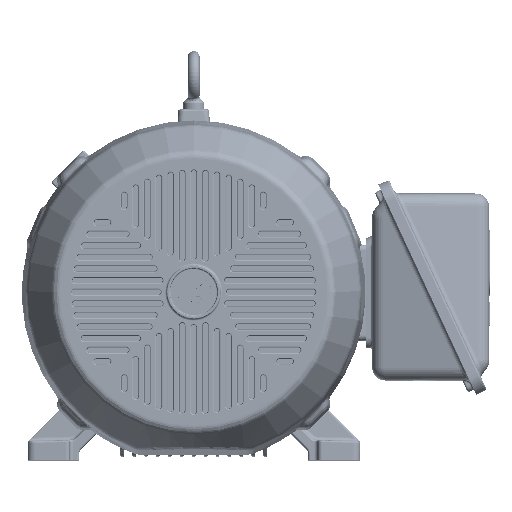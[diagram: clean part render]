
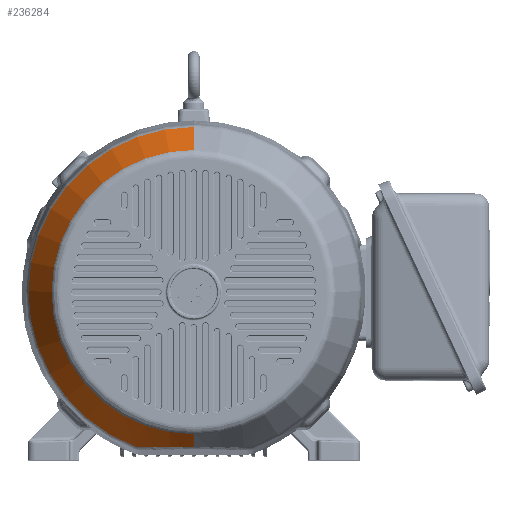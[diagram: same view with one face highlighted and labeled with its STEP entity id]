
A CAD part, top view. The second image highlights one B-rep face of the part: STEP entity #236284.
In plain terms, the highlighted conical face has half-angle 30 degrees and reference radius 255.525 mm.
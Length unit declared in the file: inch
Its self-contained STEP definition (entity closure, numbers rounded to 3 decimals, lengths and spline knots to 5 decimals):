
#228010=CARTESIAN_POINT('',(3.81286,-10.11872,
-5.82586));
#228011=CARTESIAN_POINT('',(3.65687,-10.1189,
-5.92084));
#228012=CARTESIAN_POINT('',(3.34567,-10.11941,
-6.09948));
#228013=CARTESIAN_POINT('',(2.90008,-10.12043,
-6.32573));
#228014=CARTESIAN_POINT('',(2.4157,-10.1217,
-6.53785));
#228015=CARTESIAN_POINT('',(1.90238,-10.12309,
-6.72194));
#228016=CARTESIAN_POINT('',(1.34925,-10.12442,
-6.87322));
#228017=CARTESIAN_POINT('',(0.73206,-10.12551,
-6.98374));
#228018=CARTESIAN_POINT('',(0.25443,-10.12585,
-7.01647));
#228019=CARTESIAN_POINT('',(0.,-10.12585,
-7.01647));
#228021=DIRECTION('',(0.,0.5,0.866));
#228022=VECTOR('',#228021,3.01277);
#228023=CARTESIAN_POINT('',(0.,9.30687,-8.435));
#228024=LINE('',#228023,#228022);
#228025=CARTESIAN_POINT('',(0.,0.,-8.435));
#228026=DIRECTION('',(0.,0.,-1.));
#228027=DIRECTION('',(0.,1.,0.));
#228028=AXIS2_PLACEMENT_3D('',#228025,#228026,#228027);
#228030=DIRECTION('',(0.,-0.5,0.866));
#228031=VECTOR('',#228030,1.63798);
#228032=CARTESIAN_POINT('',(0.,-9.30687,-8.435));
#228033=LINE('',#228032,#228031);
#228569=CARTESIAN_POINT('',(0.,0.,-5.82586));
#228570=DIRECTION('',(0.,0.,-1.));
#228571=DIRECTION('',(0.,1.,0.));
#228572=AXIS2_PLACEMENT_3D('',#228569,#228570,#228571);
#228584=CARTESIAN_POINT('',(0.,-10.12585,
-7.01647));
#234087=CARTESIAN_POINT('',(0.,9.30687,-8.435));
#234089=VERTEX_POINT('',#234087);
#234090=CARTESIAN_POINT('',(0.,10.81325,-5.82586));
#234091=VERTEX_POINT('',#234090);
#234093=CARTESIAN_POINT('',(0.,-9.30687,-8.435));
#234095=VERTEX_POINT('',#234093);
#234501=VERTEX_POINT('',#228584);
#234503=VERTEX_POINT('',#228010);
#236268=CARTESIAN_POINT('',(0.,0.,-7.13043));
#236269=DIRECTION('',(0.,0.,1.));
#236270=DIRECTION('',(0.,1.,0.));
#236271=AXIS2_PLACEMENT_3D('',#236268,#236269,#236270);
#236272=CONICAL_SURFACE('',#236271,10.06006,30.);
#236274=ORIENTED_EDGE('',*,*,#236273,.F.);
#236276=ORIENTED_EDGE('',*,*,#236275,.F.);
#236278=ORIENTED_EDGE('',*,*,#236277,.F.);
#236279=ORIENTED_EDGE('',*,*,#236263,.T.);
#236281=ORIENTED_EDGE('',*,*,#236280,.T.);
#236282=EDGE_LOOP('',(#236274,#236276,#236278,#236279,#236281));
#236283=FACE_OUTER_BOUND('',#236282,.F.);
#236284=ADVANCED_FACE('',(#236283),#236272,.T.);
#228020=B_SPLINE_CURVE_WITH_KNOTS('',3,(#228010,#228011,#228012,#228013,#228014,
#228015,#228016,#228017,#228018,#228019),.UNSPECIFIED.,.F.,.F.,(4,1,1,1,1,1,1,
4),(0.,0.14286,0.28571,0.42857,
0.57143,0.71429,0.85714,1.),.UNSPECIFIED.);
#228029=CIRCLE('',#228028,9.30687);
#228573=CIRCLE('',#228572,10.81325);
#236263=EDGE_CURVE('',#234089,#234095,#228029,.T.);
#236273=EDGE_CURVE('',#234503,#234501,#228020,.T.);
#236275=EDGE_CURVE('',#234091,#234503,#228573,.T.);
#236277=EDGE_CURVE('',#234089,#234091,#228024,.T.);
#236280=EDGE_CURVE('',#234095,#234501,#228033,.T.);
